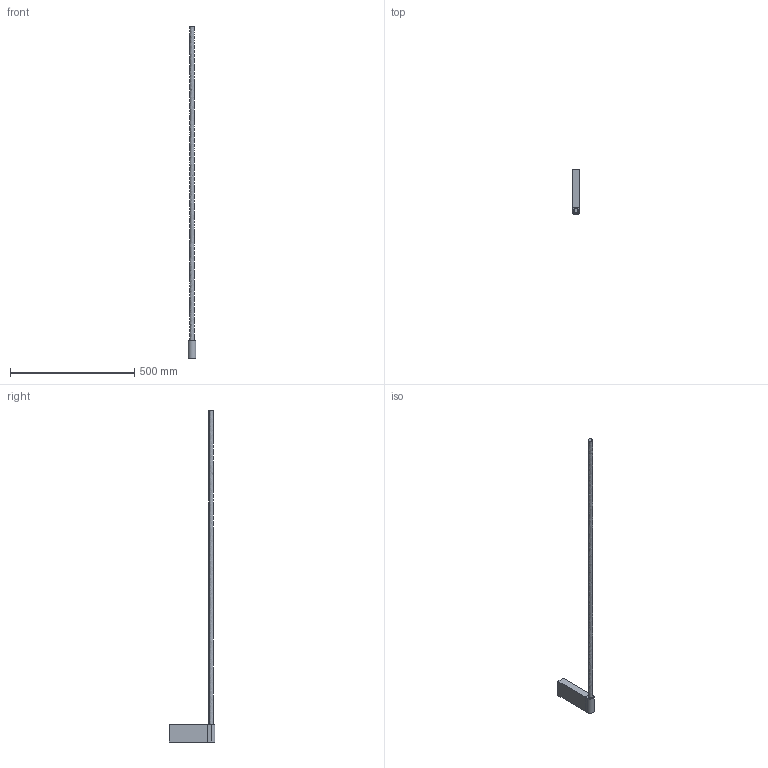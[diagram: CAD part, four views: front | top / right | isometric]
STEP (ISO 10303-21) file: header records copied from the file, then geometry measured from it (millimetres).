
FILE_DESCRIPTION(/* description */ (''),/* implementation_level */ '2;1');
FILE_NAME(/* name */ '4570',/* time_stamp */ '2021-03-31T13:14:33+02:00',/* author */ (''),/* organization */ (''),/* preprocessor_version */ 'ST-DEVELOPER v16.5',/* originating_system */ '',/* authorisation */ '');
FILE_SCHEMA (('CONFIG_CONTROL_DESIGN'));
Length unit declared in the file: millimetre
Products named in the file (1): Document
Bounding box: 30 x 184.96 x 1338 mm (x, y, z)
Volume: 471858.1 mm3; surface area: 181152.6 mm2
Topology: 4 solids, 5 shells, 23 faces, 46 edges, 32 vertices
Faces by surface type: plane 14, cylinder 7, bspline 2
Full cylindrical faces by diameter (mm): 18 x1
Entity records: 755 total; most frequent: CARTESIAN_POINT 348, ORIENTED_EDGE 88, EDGE_CURVE 46, VERTEX_POINT 32, DIRECTION 27, AXIS2_PLACEMENT_3D 24, ADVANCED_FACE 23, FACE_OUTER_BOUND 23
